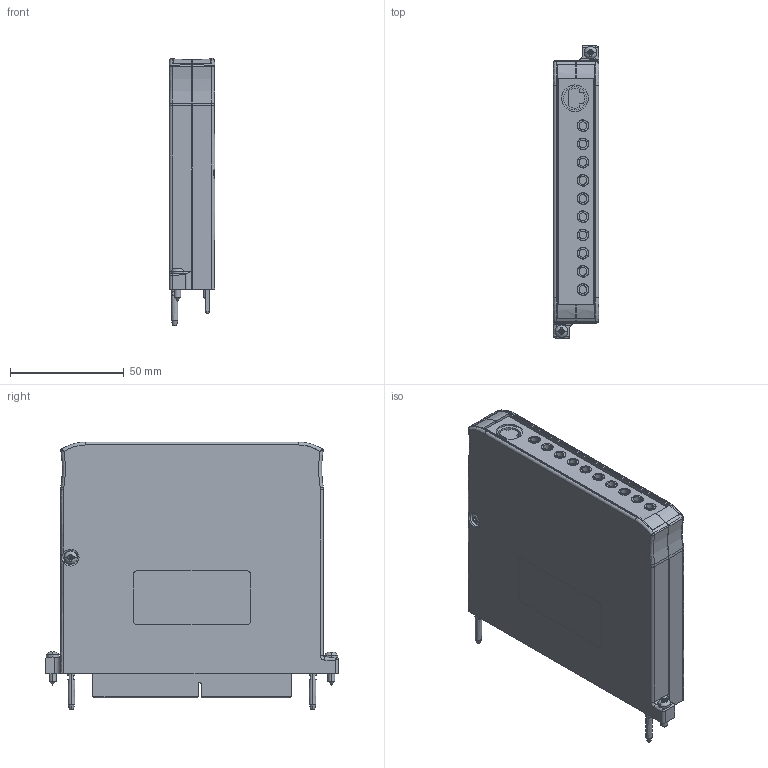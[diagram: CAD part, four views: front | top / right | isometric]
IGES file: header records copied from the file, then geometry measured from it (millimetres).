
Start section:  PTC IGES file: cu_ni-flexrio-5781_2.igs
Global section: file name: cu_ni-flexrio-5781_2.igs; native system: Pro/ENGINEER by Parametric Technology Corporation; preprocessor: 2006300; author: brucep; organization: Unknown; date: 20100113.112859; units: inch
Bounding box: 20.02 x 128.65 x 117.74 mm (x, y, z)
Surface area: 103228.4 mm2 (no closed solid volume)
Topology: 0 solids, 0 shells, 1345 faces, 6940 edges, 6904 vertices
Faces by surface type: bspline 857, revolution 488
